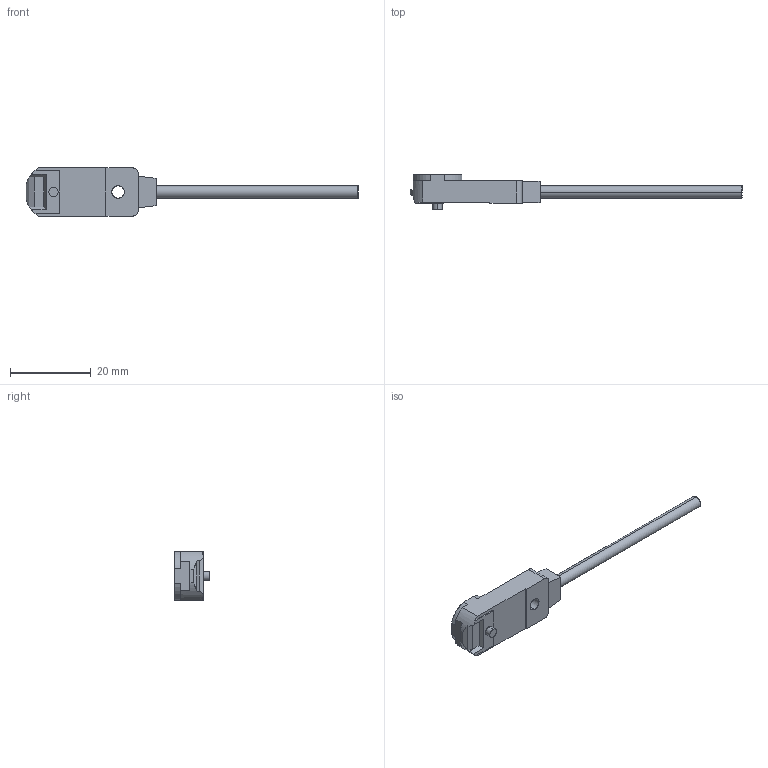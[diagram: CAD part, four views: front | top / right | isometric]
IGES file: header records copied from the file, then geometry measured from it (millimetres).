
Start section: SolidWorks IGES file using analytic representation for surfaces
Global section: file name: C:\catalog\gx-f12a.IGS; native system: SolidWorks 2005 by SolidWorks Corporation; preprocessor: SolidWorks 2005 by SolidWorks Corporation; author: kfh094; date: 070920.174613; units: millimetre
Bounding box: 82.2 x 8.6 x 12 mm (x, y, z)
Surface area: 1748.3 mm2 (no closed solid volume)
Topology: 0 solids, 0 shells, 67 faces, 714 edges, 714 vertices
Faces by surface type: bspline 47, revolution 20
